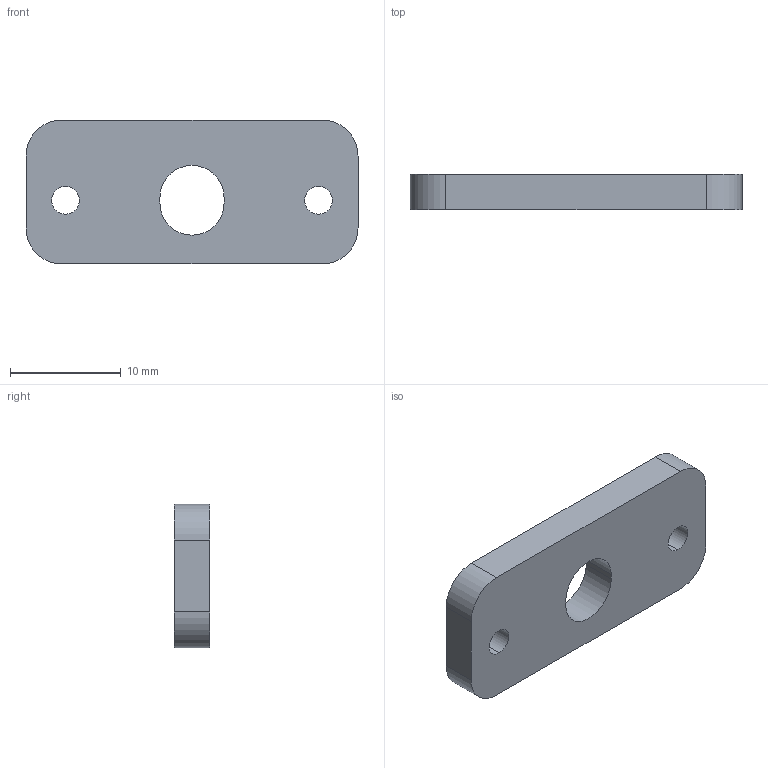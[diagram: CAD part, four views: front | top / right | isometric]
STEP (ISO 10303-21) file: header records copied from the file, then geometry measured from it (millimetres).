
FILE_DESCRIPTION (( 'STEP AP214' ), '1' );
FILE_NAME ('XM3 PCB Standoff.STEP', '2023-10-17T14:31:45', ( '' ), ( '' ), 'SwSTEP 2.0', 'SolidWorks 2022', '' );
FILE_SCHEMA (( 'AUTOMOTIVE_DESIGN' ));
Length unit declared in the file: millimetre
Products named in the file (1): XM3 PCB Standoff
Bounding box: 30 x 3.2 x 13 mm (x, y, z)
Volume: 1093.7 mm3; surface area: 1052.7 mm2
Topology: 1 solids, 1 shells, 19 faces, 51 edges, 34 vertices
Faces by surface type: cylinder 11, plane 8
Entity records: 697 total; most frequent: DIRECTION 113, CARTESIAN_POINT 105, ORIENTED_EDGE 102, EDGE_CURVE 51, AXIS2_PLACEMENT_3D 42, VERTEX_POINT 34, VECTOR 29, LINE 29
